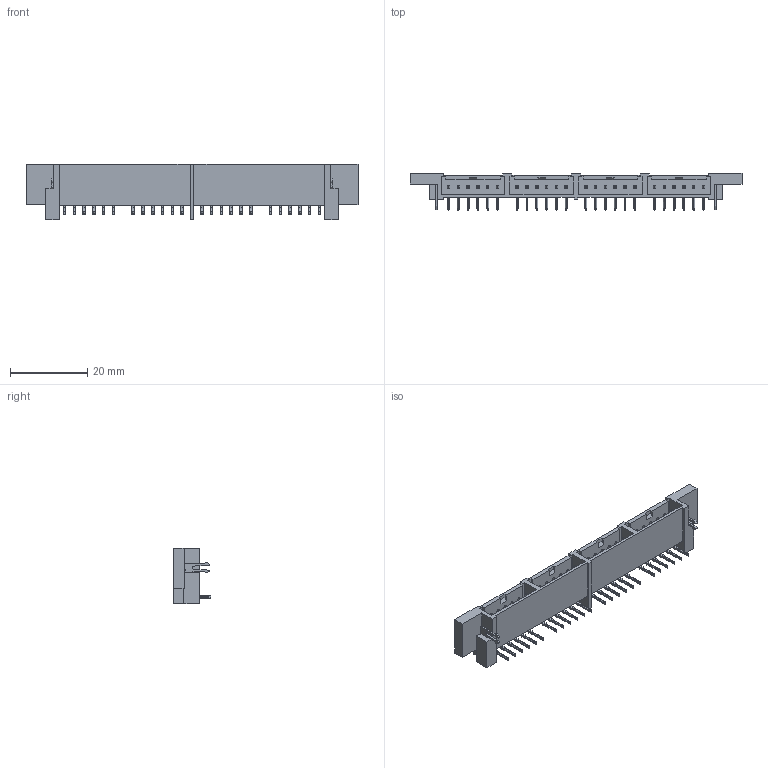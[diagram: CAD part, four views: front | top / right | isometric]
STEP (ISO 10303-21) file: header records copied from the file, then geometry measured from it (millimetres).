
FILE_DESCRIPTION (( 'STEP AP203' ), '1' );
FILE_NAME ('232D-24P1X6-L15A-FA.STEP', '2022-03-04T05:04:53', ( '' ), ( '' ), 'SwSTEP 2.0', 'SolidWorks 2018', '' );
FILE_SCHEMA (( 'CONFIG_CONTROL_DESIGN' ));
Length unit declared in the file: millimetre
Products named in the file (1): 232D-24P1X6-L15A-FA
Bounding box: 86 x 9.7 x 14.5 mm (x, y, z)
Volume: 3191.6 mm3; surface area: 5197.5 mm2
Topology: 1 solids, 1 shells, 1026 faces, 2928 edges, 1952 vertices
Faces by surface type: plane 742, cylinder 284
Entity records: 33765 total; most frequent: CARTESIAN_POINT 7923, ORIENTED_EDGE 5856, DIRECTION 4782, EDGE_CURVE 2928, LINE 2168, VECTOR 2168, VERTEX_POINT 1952, AXIS2_PLACEMENT_3D 1307
